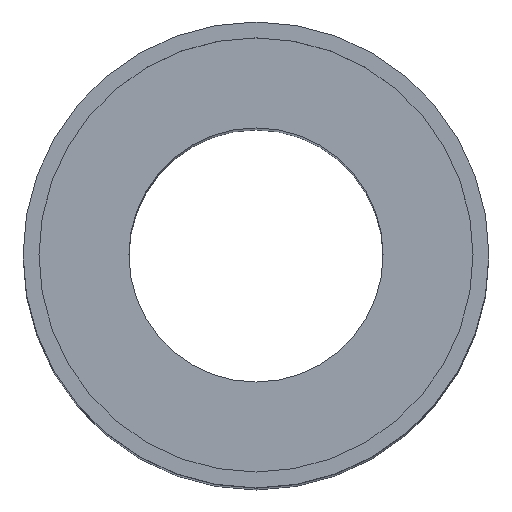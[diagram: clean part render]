
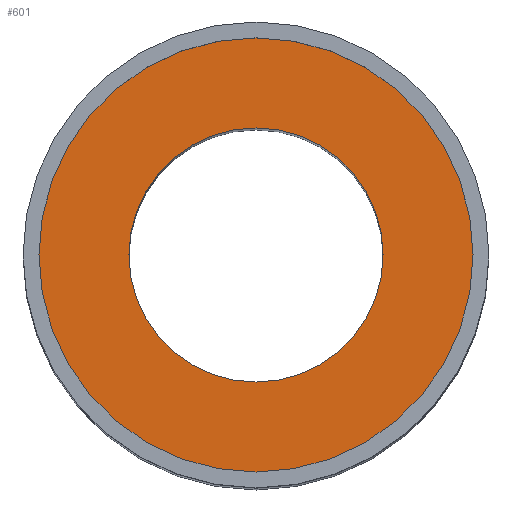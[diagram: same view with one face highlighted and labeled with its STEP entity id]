
A CAD part, top view. The second image highlights one B-rep face of the part: STEP entity #601.
In plain terms, the highlighted planar face has unit normal (0, 0, 1).
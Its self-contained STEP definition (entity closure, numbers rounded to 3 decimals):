
#135=CARTESIAN_POINT('',(-10.25,0.,56.0));
#136=VERTEX_POINT('',#135);
#152=CARTESIAN_POINT('',(10.25,0.,56.0));
#153=VERTEX_POINT('',#152);
#160=CARTESIAN_POINT('',(0.0,0.0,56.0));
#161=DIRECTION('',(0.0,0.0,-1.0));
#162=DIRECTION('',(-1.0,0.0,0.0));
#163=AXIS2_PLACEMENT_3D('',#160,#161,#162);
#164=CIRCLE('',#163,10.25);
#165=EDGE_CURVE('',#153,#136,#164,.T.);
#175=CARTESIAN_POINT('',(-6.,0.,56.0));
#176=VERTEX_POINT('',#175);
#185=CARTESIAN_POINT('',(6.,0.,56.0));
#186=VERTEX_POINT('',#185);
#187=CARTESIAN_POINT('',(0.0,0.0,56.0));
#188=DIRECTION('',(0.0,0.0,-1.0));
#189=DIRECTION('',(-1.0,0.0,0.0));
#190=AXIS2_PLACEMENT_3D('',#187,#188,#189);
#191=CIRCLE('',#190,6.);
#192=EDGE_CURVE('',#186,#176,#191,.T.);
#552=CARTESIAN_POINT('',(0.0,0.0,56.0));
#553=DIRECTION('',(0.0,0.0,-1.0));
#554=DIRECTION('',(-1.0,0.0,0.0));
#555=AXIS2_PLACEMENT_3D('',#552,#553,#554);
#556=CIRCLE('',#555,6.);
#557=EDGE_CURVE('',#176,#186,#556,.T.);
#582=CARTESIAN_POINT('',(0.0,0.0,56.0));
#583=DIRECTION('',(0.0,0.0,-1.0));
#584=DIRECTION('',(-1.0,0.0,0.0));
#585=AXIS2_PLACEMENT_3D('',#582,#583,#584);
#586=PLANE('',#585);
#587=ORIENTED_EDGE('',*,*,#165,.F.);
#588=CARTESIAN_POINT('',(0.0,0.0,56.0));
#589=DIRECTION('',(0.0,0.0,-1.0));
#590=DIRECTION('',(-1.0,0.0,0.0));
#591=AXIS2_PLACEMENT_3D('',#588,#589,#590);
#592=CIRCLE('',#591,10.25);
#593=EDGE_CURVE('',#136,#153,#592,.T.);
#594=ORIENTED_EDGE('',*,*,#593,.F.);
#595=EDGE_LOOP('',(#587,#594));
#596=FACE_OUTER_BOUND('',#595,.T.);
#597=ORIENTED_EDGE('',*,*,#192,.T.);
#598=ORIENTED_EDGE('',*,*,#557,.T.);
#599=EDGE_LOOP('',(#597,#598));
#600=FACE_BOUND('',#599,.T.);
#601=ADVANCED_FACE('',(#596,#600),#586,.F.);
